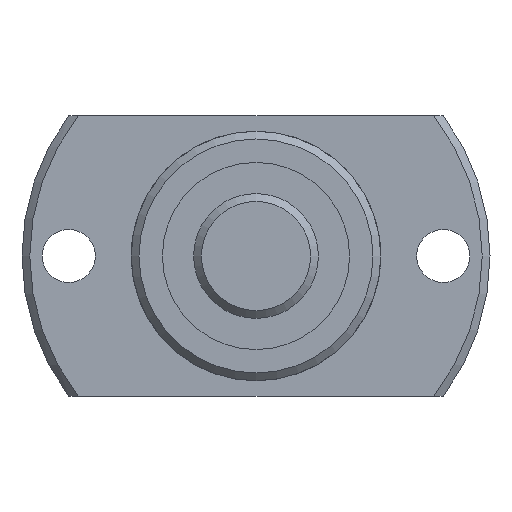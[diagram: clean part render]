
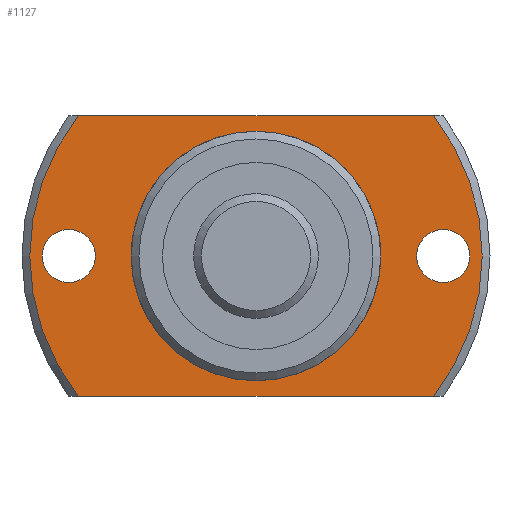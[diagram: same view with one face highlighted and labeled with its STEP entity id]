
A CAD part, left-side view. The second image highlights one B-rep face of the part: STEP entity #1127.
In plain terms, the highlighted planar face has unit normal (-1, 0, 0).
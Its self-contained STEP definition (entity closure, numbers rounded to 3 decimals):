
#116=CIRCLE('',#1248,7.8);
#119=CIRCLE('',#1252,14.5);
#125=CIRCLE('',#1263,1.7);
#126=CIRCLE('',#1264,1.7);
#127=CIRCLE('',#1265,14.5);
#261=ORIENTED_EDGE('',*,*,#533,.T.);
#262=ORIENTED_EDGE('',*,*,#534,.T.);
#263=ORIENTED_EDGE('',*,*,#522,.F.);
#264=ORIENTED_EDGE('',*,*,#535,.T.);
#265=ORIENTED_EDGE('',*,*,#536,.F.);
#266=ORIENTED_EDGE('',*,*,#537,.T.);
#267=ORIENTED_EDGE('',*,*,#516,.T.);
#516=EDGE_CURVE('',#661,#661,#116,.T.);
#522=EDGE_CURVE('',#666,#667,#119,.T.);
#533=EDGE_CURVE('',#676,#676,#125,.T.);
#534=EDGE_CURVE('',#677,#677,#126,.T.);
#535=EDGE_CURVE('',#666,#678,#751,.T.);
#536=EDGE_CURVE('',#679,#678,#127,.T.);
#537=EDGE_CURVE('',#679,#667,#752,.T.);
#661=VERTEX_POINT('',#1838);
#666=VERTEX_POINT('',#1852);
#667=VERTEX_POINT('',#1854);
#676=VERTEX_POINT('',#1888);
#677=VERTEX_POINT('',#1890);
#678=VERTEX_POINT('',#1892);
#679=VERTEX_POINT('',#1894);
#751=LINE('',#1891,#811);
#752=LINE('',#1895,#812);
#811=VECTOR('',#1504,1000.);
#812=VECTOR('',#1507,1000.);
#891=EDGE_LOOP('',(#261));
#892=EDGE_LOOP('',(#262));
#893=EDGE_LOOP('',(#263,#264,#265,#266));
#894=EDGE_LOOP('',(#267));
#999=FACE_BOUND('',#891,.T.);
#1000=FACE_BOUND('',#892,.T.);
#1001=FACE_BOUND('',#893,.T.);
#1002=FACE_BOUND('',#894,.T.);
#1075=PLANE('',#1262);
#1127=ADVANCED_FACE('',(#999,#1000,#1001,#1002),#1075,.F.);
#1248=AXIS2_PLACEMENT_3D('',#1837,#1466,#1467);
#1252=AXIS2_PLACEMENT_3D('',#1853,#1476,#1477);
#1262=AXIS2_PLACEMENT_3D('',#1886,#1498,#1499);
#1263=AXIS2_PLACEMENT_3D('',#1887,#1500,#1501);
#1264=AXIS2_PLACEMENT_3D('',#1889,#1502,#1503);
#1265=AXIS2_PLACEMENT_3D('',#1893,#1505,#1506);
#1466=DIRECTION('',(1.,0.,0.));
#1467=DIRECTION('',(0.,0.,-1.));
#1476=DIRECTION('',(1.,0.,0.));
#1477=DIRECTION('',(0.,0.,-1.));
#1498=DIRECTION('',(1.,0.,0.));
#1499=DIRECTION('',(0.,0.,-1.));
#1500=DIRECTION('',(1.,0.,0.));
#1501=DIRECTION('',(0.,0.,-1.));
#1502=DIRECTION('',(1.,0.,0.));
#1503=DIRECTION('',(0.,0.,-1.));
#1504=DIRECTION('',(0.,-1.,0.));
#1505=DIRECTION('',(1.,0.,0.));
#1506=DIRECTION('',(0.,0.,-1.));
#1507=DIRECTION('',(0.,1.,0.));
#1837=CARTESIAN_POINT('',(13.,0.,0.));
#1838=CARTESIAN_POINT('',(13.,0.,-7.8));
#1852=CARTESIAN_POINT('',(13.,11.369,-9.));
#1853=CARTESIAN_POINT('',(13.,0.,0.));
#1854=CARTESIAN_POINT('',(13.,11.369,9.));
#1886=CARTESIAN_POINT('',(13.,7.8,0.));
#1887=CARTESIAN_POINT('',(13.,-12.,0.));
#1888=CARTESIAN_POINT('',(13.,-12.,-1.7));
#1889=CARTESIAN_POINT('',(13.,12.,0.));
#1890=CARTESIAN_POINT('',(13.,12.,-1.7));
#1891=CARTESIAN_POINT('',(13.,7.8,-9.));
#1892=CARTESIAN_POINT('',(13.,-11.369,-9.));
#1893=CARTESIAN_POINT('',(13.,0.,0.));
#1894=CARTESIAN_POINT('',(13.,-11.369,9.));
#1895=CARTESIAN_POINT('',(13.,7.8,9.));
